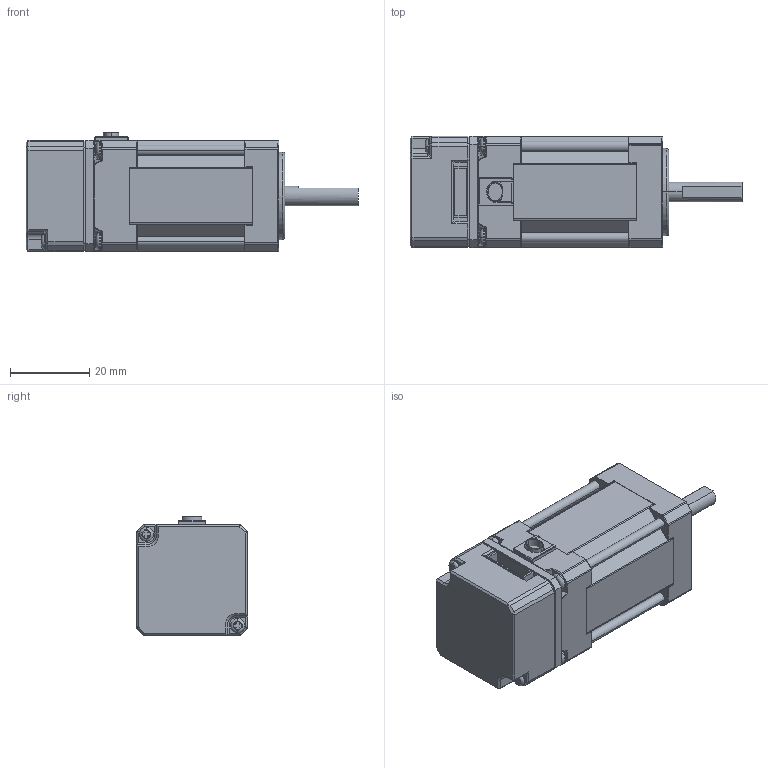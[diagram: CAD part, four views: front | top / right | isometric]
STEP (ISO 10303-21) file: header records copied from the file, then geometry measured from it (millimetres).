
FILE_DESCRIPTION(('STEP AP214'),'1');
FILE_NAME('D:\仕事\テーマ別\3DCAD\RSA0211\tmp0.STEP',' ',(' '),(' '),'XStep 1.0',' ',' ');
FILE_SCHEMA(('automotive_design'));
Length unit declared in the file: millimetre
Bounding box: 83.55 x 28 x 30 mm (x, y, z)
Volume: 47093.3 mm3; surface area: 17836.2 mm2
Topology: 21 solids, 21 shells, 1086 faces, 2676 edges, 1584 vertices
Faces by surface type: plane 457, cylinder 394, bspline 133, sphere 48, torus 30, cone 24
Entity records: 52894 total; most frequent: CARTESIAN_POINT 18600, DIRECTION 5330, ORIENTED_EDGE 5252, EDGE_CURVE 2626, AXIS2_PLACEMENT_3D 2018, VERTEX_POINT 1584, LINE 1294, VECTOR 1294
